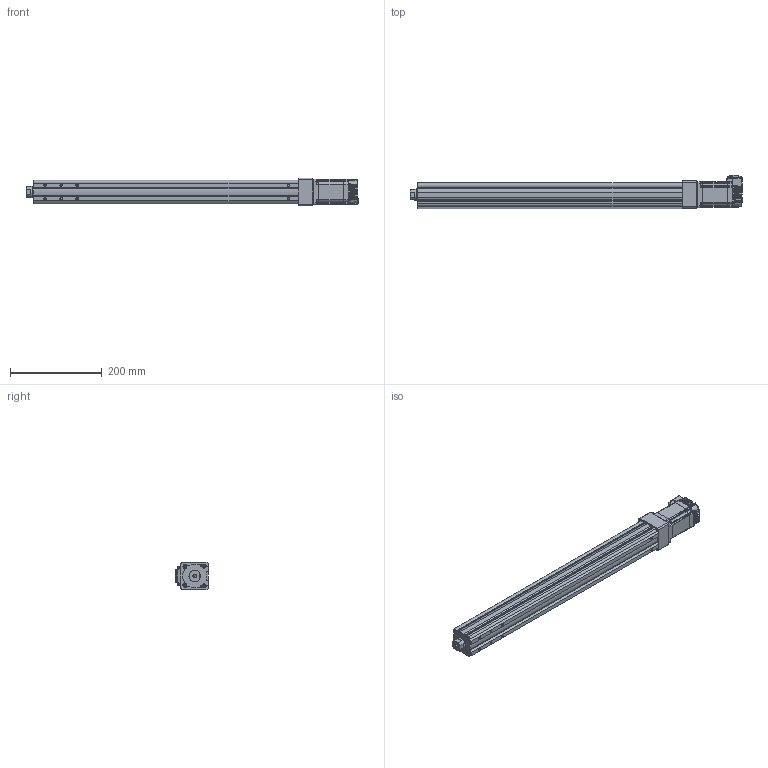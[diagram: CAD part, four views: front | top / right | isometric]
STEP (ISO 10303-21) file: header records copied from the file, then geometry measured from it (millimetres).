
FILE_DESCRIPTION (( 'STEP AP214' ), '1' );
FILE_NAME ('LEY3(+)-32DNM1□-450-23L.STEP', '2023-04-06T07:45:43', ( '' ), ( '' ), 'SwSTEP 2.0', 'SolidWorks 2019', '' );
FILE_SCHEMA (( 'AUTOMOTIVE_DESIGN' ));
Length unit declared in the file: millimetre
Products named in the file (5): CM3(+)-23L50A_2-M4_01; LEY3(+)-32DNM1□-450-23L; LEY3(+)-32DNM1_MOTOR Flange; LEY3(+)-32NM1?_ROD_450; LEY3(+)-32NM1?_BODY_450
Assembly tree (4 placements, depth 2):
  LEY3(+)-32DNM1□-450-23L
    LEY3(+)-32NM1?_BODY_450
    LEY3(+)-32NM1?_ROD_450
    LEY3(+)-32DNM1_MOTOR Flange
    CM3(+)-23L50A_2-M4_01
Bounding box: 722.8 x 73.75 x 60 mm (x, y, z)
Volume: 1712075.1 mm3; surface area: 294546.9 mm2
Topology: 4 solids, 13 shells, 1439 faces, 3713 edges, 2295 vertices
Faces by surface type: plane 668, cylinder 432, bspline 133, cone 101, torus 58, sphere 47
Full cylindrical faces by diameter (mm): 2.5 x4, 3 x2, 3.2 x4, 4.2 x1, 4.5 x7, 4.9 x10, 5 x1, 6.2 x4, 6.35 x1, 6.8 x1, 7 x2, 8 x2, 24.8 x1, 25 x2, 32 x2, 38.1 x1
Entity records: 49056 total; most frequent: CARTESIAN_POINT 12638, ORIENTED_EDGE 7102, DIRECTION 6555, EDGE_CURVE 3551, VERTEX_POINT 2267, AXIS2_PLACEMENT_3D 2230, VECTOR 2095, LINE 2095
